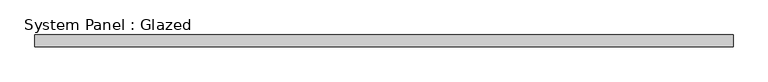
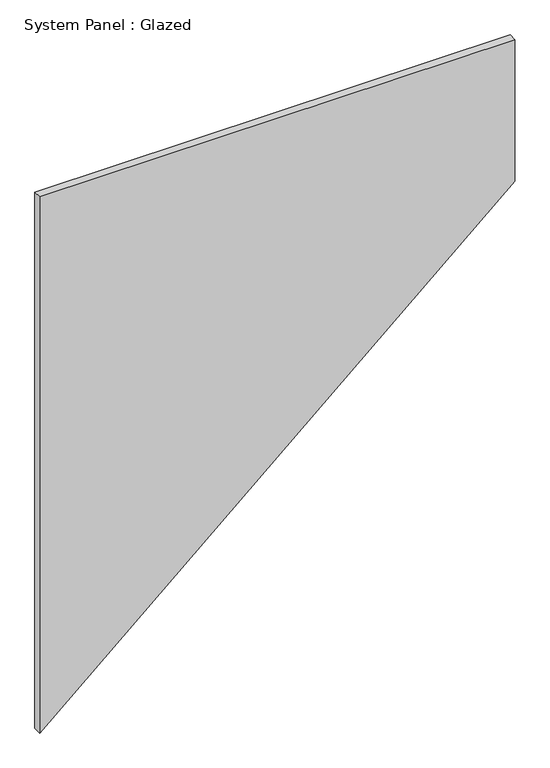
"""IFC4 building model written with IfcOpenShell, lengths in millimetres: plate geometry, System Panel : Glazed."""

import ifcopenshell
import ifcopenshell.guid

model = None  # the IFC model being written
_history = None  # IfcOwnerHistory: only IFC2X3 demands one
_inside = {}  # id of a spatial element -> (the spatial element, [elements in it])
_under = {}  # id of a project, library or spatial element -> (it, [spatial elements below it])
_declared = {}  # id of a project -> (the project, [libraries it declares])
_typed = {}  # id of a type object -> (the type object, [elements of that type])
_made_of = {}  # id of a material, layer set ... -> (it, [elements and type objects made of it])


def new_model(schema):
    """Start an empty IFC model of exactly this schema.

    Asked for "IFC4X3", IfcOpenShell would pick the latest addendum, in which some entities
    have other attributes; the version numbers below select the first issue.
    IFC2X3 requires an IfcOwnerHistory on every rooted entity: one is made here for all.
    """
    global model, _history
    if schema == "IFC4X3":
        model = ifcopenshell.file(schema_version=(4, 3, 0, 0))
    else:
        model = ifcopenshell.file(schema=schema)
    _inside.clear()
    _under.clear()
    _declared.clear()
    _typed.clear()
    _made_of.clear()
    _history = None
    if model.schema == "IFC2X3":
        org = make("IfcOrganization", Name="unknown")
        user = make(
            "IfcPersonAndOrganization",
            ThePerson=make("IfcPerson", FamilyName="unknown"),
            TheOrganization=org,
        )
        app = make(
            "IfcApplication",
            ApplicationDeveloper=org,
            Version="unknown",
            ApplicationFullName="unknown",
            ApplicationIdentifier="unknown",
        )
        _history = make(
            "IfcOwnerHistory",
            OwningUser=user,
            OwningApplication=app,
            ChangeAction="ADDED",
            CreationDate=0,
        )
    return model


def make(cls, **values):
    """One entity of the class cls with the attributes given. An attribute that is None is left unset."""
    return model.create_entity(
        cls, **{name: value for name, value in values.items() if value is not None}
    )


def rooted(cls, **values):
    """An entity with a GlobalId (a new one), such as an element, a storey or a relation."""
    return make(cls, GlobalId=ifcopenshell.guid.new(), OwnerHistory=_history, **values)


def si_unit(unit_type, name, prefix=None):
    """IfcSIUnit, for example si_unit("LENGTHUNIT", "METRE", prefix="MILLI")."""
    return make("IfcSIUnit", UnitType=unit_type, Prefix=prefix, Name=name)


def assignment(units):
    """IfcUnitAssignment: the units of a project."""
    return None if units is None else make("IfcUnitAssignment", Units=units)


def point(xyz):
    """IfcCartesianPoint."""
    return None if xyz is None else make("IfcCartesianPoint", Coordinates=xyz)


def direction(xyz):
    """IfcDirection."""
    return None if xyz is None else make("IfcDirection", DirectionRatios=xyz)


def frame(location, z_axis=None, x_axis=None):
    """IfcAxis2Placement3D, a coordinate frame: its origin and axes. An axis left out is left unset."""
    return make(
        "IfcAxis2Placement3D",
        Location=point(location),
        Axis=direction(z_axis),
        RefDirection=direction(x_axis),
    )


def origin():
    """The frame at (0, 0, 0) with its axes left unset."""
    return frame((0.0, 0.0, 0.0))


def place(relative_to, where):
    """IfcLocalPlacement: puts the frame where relative to a parent placement (None: the world)."""
    return make(
        "IfcLocalPlacement", PlacementRelTo=relative_to, RelativePlacement=where
    )


def context(
    kind, dimensions, precision=None, world=None, true_north=None, identifier=None
):
    """IfcGeometricRepresentationContext, for example the 3D "Model" context."""
    return make(
        "IfcGeometricRepresentationContext",
        ContextIdentifier=identifier,
        ContextType=kind,
        CoordinateSpaceDimension=dimensions,
        Precision=precision,
        WorldCoordinateSystem=world,
        TrueNorth=true_north,
    )


def project(units=None, contexts=None):
    """IfcProject with its units and contexts."""
    return rooted(
        "IfcProject",
        Name="project",
        RepresentationContexts=contexts,
        UnitsInContext=assignment(units),
    )


def spatial(cls, under=None, at=None, **own):
    """A site, building, storey or space (cls), placed at a placement, below another one or the project."""
    s = rooted(cls, ObjectPlacement=at, **own)
    if under is not None:
        _under.setdefault(under.id(), (under, []))[1].append(s)
    return s


def polyline(points):
    """IfcPolyline through the points."""
    return make("IfcPolyline", Points=[point(p) for p in points])


def outline(outer, holes=None, kind="AREA"):
    """IfcArbitraryClosedProfileDef: a profile drawn as a closed curve; with holes, ...WithVoids."""
    if holes is None:
        return make("IfcArbitraryClosedProfileDef", ProfileType=kind, OuterCurve=outer)
    return make(
        "IfcArbitraryProfileDefWithVoids",
        ProfileType=kind,
        OuterCurve=outer,
        InnerCurves=holes,
    )


def extrude(swept, where, along, depth):
    """IfcExtrudedAreaSolid: the profile swept, set in the frame where, extruded along a direction by depth."""
    return make(
        "IfcExtrudedAreaSolid",
        SweptArea=swept,
        Position=where,
        ExtrudedDirection=direction(along),
        Depth=depth,
    )


def shape(context_of_items, identifier, shape_type, items):
    """IfcShapeRepresentation: the items that make up one representation, for example the "Body"."""
    return make(
        "IfcShapeRepresentation",
        ContextOfItems=context_of_items,
        RepresentationIdentifier=identifier,
        RepresentationType=shape_type,
        Items=items,
    )


def source(mapping_origin, context_of_items, identifier, shape_type, items):
    """IfcRepresentationMap: a shape defined once, which mapped items show again and again."""
    return make(
        "IfcRepresentationMap",
        MappingOrigin=mapping_origin,
        MappedRepresentation=shape(context_of_items, identifier, shape_type, items),
    )


def transform(
    local_origin,
    x_axis=None,
    y_axis=None,
    z_axis=None,
    scale=None,
    scale2=None,
    scale3=None,
    uniform=True,
):
    """IfcCartesianTransformationOperator3D, or its non-uniform kind. x_axis, y_axis, z_axis: its Axis1, 2, 3."""
    if uniform:
        return make(
            "IfcCartesianTransformationOperator3D",
            Axis1=direction(x_axis),
            Axis2=direction(y_axis),
            LocalOrigin=point(local_origin),
            Scale=scale,
            Axis3=direction(z_axis),
        )
    return make(
        "IfcCartesianTransformationOperator3DnonUniform",
        Axis1=direction(x_axis),
        Axis2=direction(y_axis),
        LocalOrigin=point(local_origin),
        Scale=scale,
        Axis3=direction(z_axis),
        Scale2=scale2,
        Scale3=scale3,
    )


def mapped(mapping_source, mapping_target):
    """IfcMappedItem: shows the shape of a source again, moved by a transform."""
    return make(
        "IfcMappedItem", MappingSource=mapping_source, MappingTarget=mapping_target
    )


def made_of(thing, what):
    """Note that an element or type object is made of a material, layer set ...; save() writes the relation."""
    if what is not None:
        _made_of.setdefault(what.id(), (what, []))[1].append(thing)
    return thing


def element(
    cls,
    number,
    at=None,
    inside=None,
    cuts=None,
    type_object=None,
    material=None,
    context=None,
    identifier="Body",
    shape_type=None,
    held_by="IfcProductDefinitionShape",
    body=None,
    shapes=None,
    **own,
):
    """One element of the class cls, such as IfcWall. Its Tag is "e" and its number.

    at: its placement. inside: the storey or other place that contains it. cuts: it is an
    opening in that element (IfcRelVoidsElement). A single representation is given by context,
    identifier, shape_type and body (its items); several are given by shapes. held_by: the class
    of the entity that holds the representations. save() writes the other relations.
    """
    e = rooted(cls, Tag="e%d" % number, ObjectPlacement=at, **own)
    if body is not None:
        shapes = [shape(context, identifier, shape_type, body)]
    if shapes is not None:
        e.Representation = make(held_by, Representations=shapes)
    if inside is not None:
        _inside.setdefault(inside.id(), (inside, []))[1].append(e)
    if cuts is not None:
        rooted(
            "IfcRelVoidsElement", RelatingBuildingElement=cuts, RelatedOpeningElement=e
        )
    if type_object is not None:
        _typed.setdefault(type_object.id(), (type_object, []))[1].append(e)
    return made_of(e, material)


def aggregate(whole, parts):
    """IfcRelAggregates: a whole, such as a stair, and the parts it consists of."""
    return rooted("IfcRelAggregates", RelatingObject=whole, RelatedObjects=parts)


def save(model, path):
    """Write the relations noted so far, then the file.

    IfcRelAggregates (storeys below a building ...), IfcRelContainedInSpatialStructure (elements
    in a storey), IfcRelDefinesByType, IfcRelAssociatesMaterial and IfcRelDeclares: one each for
    every whole, place, type object, material and project.
    """
    for whole, parts in _under.values():
        aggregate(whole, parts)
    for where, things in _inside.values():
        rooted(
            "IfcRelContainedInSpatialStructure",
            RelatedElements=things,
            RelatingStructure=where,
        )
    for kind, things in _typed.values():
        rooted("IfcRelDefinesByType", RelatedObjects=things, RelatingType=kind)
    for what, things in _made_of.values():
        rooted("IfcRelAssociatesMaterial", RelatedObjects=things, RelatingMaterial=what)
    for by, libraries in _declared.values():
        rooted("IfcRelDeclares", RelatingContext=by, RelatedDefinitions=libraries)
    model.write(path)


def system_panel_glazed_23e2cf61(model_context):
    return source(origin(), model_context, "Body", "SweptSolid", [
        extrude(outline(polyline([(0.0, -735.8695652), (1290.3580977, 735.8695652), (1754.9766913, 735.8695652), (1754.9766913, -735.8695652), (0.0, -735.8695652)])), frame((0.0, 24.5, 0.0), z_axis=(0.0, 1.0, 0.0), x_axis=(0.0, 0.0, 1.0)), (0.0, 0.0, 1.0), 25.0),
    ])


if __name__ == "__main__":
    model = new_model("IFC4")
    model_context = context("Model", 3, world=origin())
    ifc_project = project(units=[si_unit("LENGTHUNIT", "METRE", prefix="MILLI")], contexts=[model_context])
    site = spatial("IfcSite", under=ifc_project)
    building = spatial("IfcBuilding", under=site)
    placement = place(None, origin())
    system_panel_glazed_shape = system_panel_glazed_23e2cf61(model_context)
    element("IfcPlate", 1, ObjectType="System Panel : Glazed", at=placement, inside=building, context=model_context, shape_type="MappedRepresentation", body=[
        mapped(system_panel_glazed_shape, transform((0.0, 0.0, 0.0), x_axis=(1.0, 0.0, 0.0), y_axis=(0.0, 1.0, 0.0), z_axis=(0.0, 0.0, 1.0))),
    ])
    save(model, "model.ifc")
